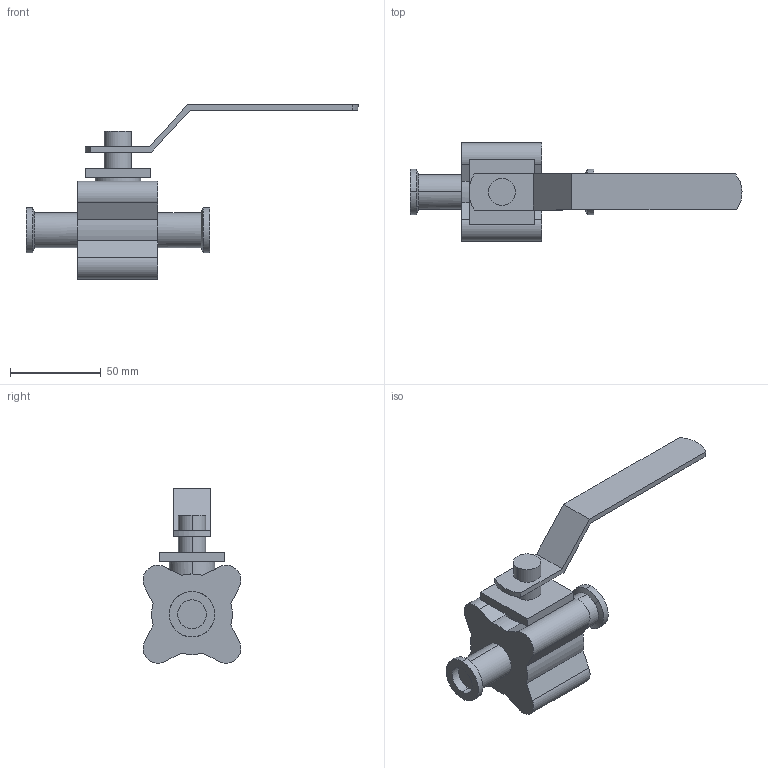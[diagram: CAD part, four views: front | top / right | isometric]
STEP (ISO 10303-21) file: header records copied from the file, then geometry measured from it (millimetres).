
FILE_DESCRIPTION(('Creo Elements/Direct Modeling STEP Export'),'2;1');
FILE_NAME('BLV1-0.75T-H-12CL.stp','2019-05-10T 7:51:32',(''),(''),'Creo Elements/Direct Modeling STEP processor for AP214 (Solid Model)','Creo Elements/Direct Modeling 19.0F 14-Feb-2017 (C) Parametric Technology GmbH','');
FILE_SCHEMA(('AUTOMOTIVE_DESIGN { 1 0 10303 214 1 1 1 1 }'));
Length unit declared in the file: millimetre
Products named in the file (2): BLV1-0.75T-H-12CL
Assembly tree (1 placements, depth 2):
  BLV1-0.75T-H-12CL
    BLV1-0.75T-H-12CL
Bounding box: 182.52 x 53.87 x 95.93 mm (x, y, z)
Volume: 142399.8 mm3; surface area: 29438.1 mm2
Topology: 1 solids, 1 shells, 62 faces, 157 edges, 105 vertices
Faces by surface type: plane 29, cylinder 29, cone 4
Entity records: 1836 total; most frequent: CARTESIAN_POINT 345, ORIENTED_EDGE 314, DIRECTION 290, EDGE_CURVE 157, VERTEX_POINT 105, AXIS2_PLACEMENT_3D 102, VECTOR 86, LINE 86
